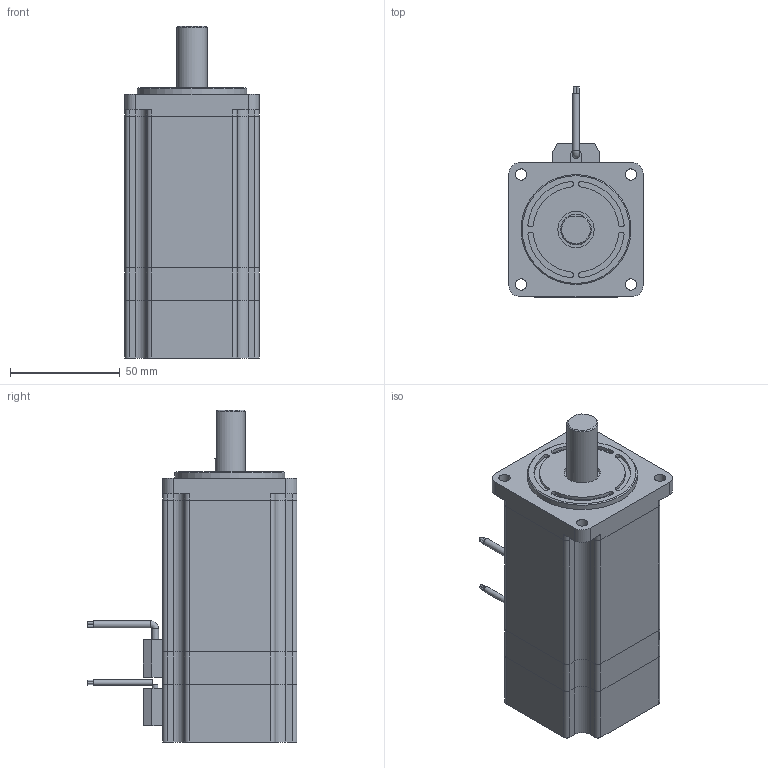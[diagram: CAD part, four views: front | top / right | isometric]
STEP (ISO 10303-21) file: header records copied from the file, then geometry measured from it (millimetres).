
FILE_DESCRIPTION(/* description */ (''),/* implementation_level */ '2;1');
FILE_NAME(/* name */ 'JK60BLS03.stp',/* time_stamp */ '2020-10-07T11:26:17+08:00',/* author */ (''),/* organization */ (''),/* preprocessor_version */ 'ST-DEVELOPER v14',/* originating_system */ 'SIEMENS PLM Software NX 8.0',/* authorisation */ '');
FILE_SCHEMA (('CONFIG_CONTROL_DESIGN'));
Length unit declared in the file: millimetre
Products named in the file (1): JK60BLS03
Bounding box: 61 x 95.5 x 151 mm (x, y, z)
Volume: 418105.2 mm3; surface area: 61045.8 mm2
Topology: 8 solids, 22 shells, 212 faces, 554 edges, 374 vertices
Faces by surface type: plane 112, cylinder 97, cone 2, torus 1
Full cylindrical faces by diameter (mm): 0.7 x5, 1.2 x3, 2.568 x2, 3.116 x2, 5.2 x4, 14 x1, 16.5 x1, 50 x1
Entity records: 6528 total; most frequent: DIRECTION 1160, CARTESIAN_POINT 1114, ORIENTED_EDGE 1028, EDGE_CURVE 527, AXIS2_PLACEMENT_3D 422, VERTEX_POINT 368, LINE 316, VECTOR 316
